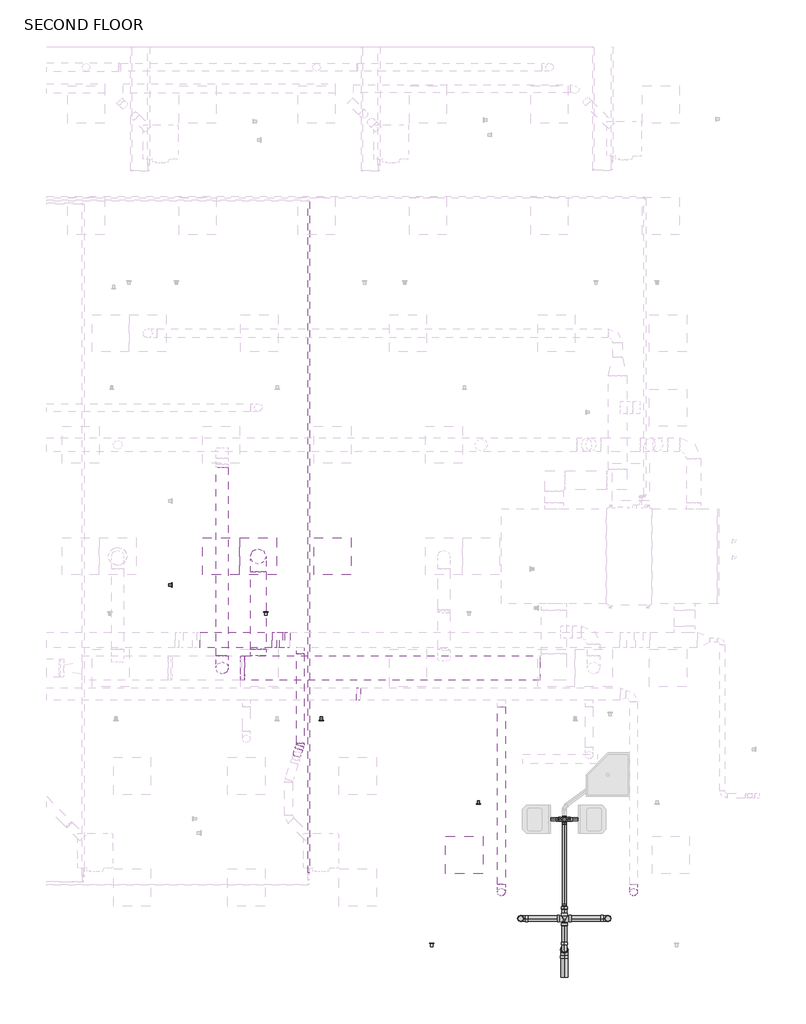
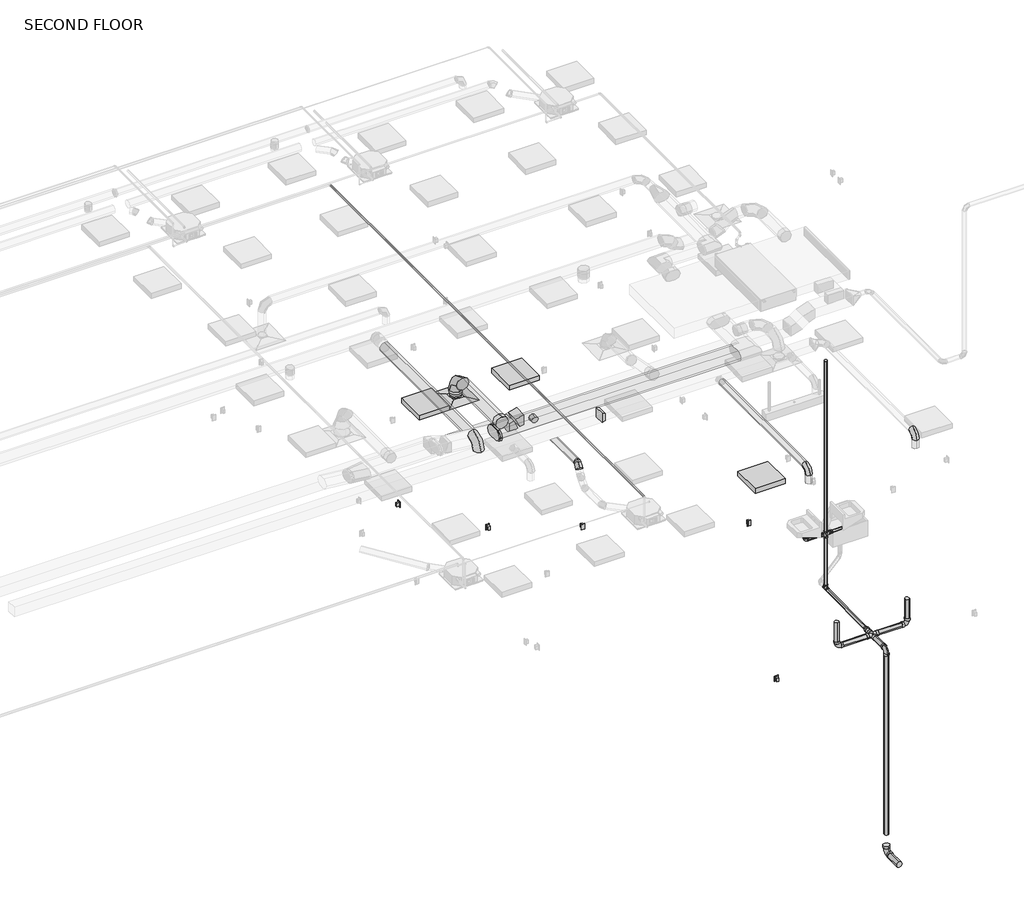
# One storey, part 4 of 12: 16 pipe segments, 13 duct fittings, 12 duct segments, 12 pipe fittings, 3 light fixtures, 3 switching devices, 2 proxies, 1 air terminal.
"""IFC4 building model written with IfcOpenShell, lengths in millimetres."""

from ifc_helpers import new_model, si_unit, point, frame, frame_2d, origin, place, context, project, spatial, polyline, circle_curve, trimmed, segment, composite_curve, outline, extrude, transform, mapped, element, save
from components import air_terminal_e9020785, duplex_receptacle_countertop_10251bba, oval_elbow_mitered_standard_605f781d, rectangular_elbow_radius_1_5_w_1e05c444, rectangular_transition_angle_45_degree_f04e55b7, round_elbow_1_d_eb5e9ad8, round_elbow_1_d_01278626, round_elbow_1_d_a253342a, round_elbow_1_d_c80420c1, round_elbow_1_d_e3dc691b, round_takeoff_standard_7fe2b2d5, round_takeoff_standard_86724b47, round_transition_angle_45_degree_6c335ea7, troffer_corner_insert_2x2_3lamp_e67c7f8f, bend_pvc_sch_40_dwv_standard_738aab8b, bend_pvc_sch_40_dwv_standard_a4b99d37, bend_pvc_sch_40_dwv_standard_5536a2d2, bend_pvc_sch_40_dwv_standard_1fb0f857, reducer_pvc_sch_40_dwv_standard_44865e00, reducer_pvc_sch_40_dwv_standard_230e9924, tee_double_sanitary_pvc_sch_40_dwv_standard_0560fe9e, tee_double_sanitary_pvc_sch_40_dwv_standard_2fd41c53, tee_sanitary_pvc_sch_40_dwv_standard_c06fe43b

model = new_model("IFC4")

# Units and contexts
model_context = context("Model", 3, world=origin())
ifc_project = project(units=[si_unit("LENGTHUNIT", "METRE", prefix="MILLI")], contexts=[model_context])

# Site, building, storey
site = spatial("IfcSite", under=ifc_project)
building = spatial("IfcBuilding", under=site)
storey = spatial("IfcBuildingStorey", under=building, Name="SECOND FLOOR", Elevation=34544.0)

# Air terminal
placement = place(None, origin())
air_terminal_shape = air_terminal_e9020785(model_context)
element("IfcAirTerminal", 1, ObjectType="Supply Diffuser - Rectangular Face Round Neck - Hosted : 24\"x24\" Face 8\" Neck - Hosted", at=placement, inside=storey, context=model_context, shape_type="MappedRepresentation", body=[
    mapped(air_terminal_shape, transform((5669.1232893, -751.4804995, 37287.2), x_axis=(-1.0, 0.0, 0.0), y_axis=(0.0, 1.0, 0.0), z_axis=(0.0, 0.0, -1.0))),
])

# Proxies
duplex_receptacle_countertop_shape = duplex_receptacle_countertop_10251bba(model_context)
element("IfcBuildingElementProxy", 2, Name="Duplex Receptacle : GFCI", ObjectType="Duplex Receptacle : GFCI", at=placement, inside=storey, context=model_context, shape_type="MappedRepresentation", body=[
    mapped(duplex_receptacle_countertop_shape, transform((8516.31879, -7095.1304995, 34086.8), x_axis=(-1.0, 0.0, 0.0), y_axis=(0.0, 0.0, 1.0), z_axis=(0.0, 1.0, 0.0))),
])
element("IfcBuildingElementProxy", 3, Name="Duplex Receptacle : Standard", ObjectType="Duplex Receptacle : Standard", at=placement, inside=storey, context=model_context, shape_type="MappedRepresentation", body=[
    mapped(duplex_receptacle_countertop_shape, transform((5796.2112859, -1665.8804995, 35001.2), x_axis=(-1.0, 0.0, 0.0), y_axis=(0.0, 0.0, 1.0), z_axis=(0.0, 1.0, 0.0))),
])

# Duct fittings
oval_elbow_mitered_standard_shape = oval_elbow_mitered_standard_605f781d(model_context)
element("IfcDuctFitting", 4, ObjectType="Oval Elbow - Mitered : Standard", at=placement, inside=storey, context=model_context, shape_type="MappedRepresentation", body=[
    mapped(oval_elbow_mitered_standard_shape, transform((5416.9741542, -2580.2804995, 37711.1892428), x_axis=(-1.0, 0.0, 0.0), y_axis=(0.0, 0.0, 1.0), z_axis=(0.0, 1.0, 0.0))),
])
rectangular_elbow_radius_1_5_w_shape = rectangular_elbow_radius_1_5_w_1e05c444(model_context)
element("IfcDuctFitting", 5, ObjectType="Rectangular Elbow - Radius : 1.5 W", at=placement, inside=storey, context=model_context, shape_type="MappedRepresentation", body=[
    mapped(rectangular_elbow_radius_1_5_w_shape, transform((6123.5451964, -2123.0804995, 37515.8), x_axis=(-1.0, 0.0, 0.0), y_axis=(0.0, 0.0, -1.0), z_axis=(0.0, -1.0, 0.0))),
])
element("IfcDuctFitting", 6, ObjectType="Rectangular Elbow - Radius : 1.5 W", at=placement, inside=storey, context=model_context, shape_type="MappedRepresentation", body=[
    mapped(rectangular_elbow_radius_1_5_w_shape, transform((5964.0014464, -2123.0804995, 37439.6), x_axis=(1.0, 0.0, 0.0), y_axis=(0.0, 0.0, 1.0), z_axis=(0.0, -1.0, 0.0))),
])
rectangular_transition_angle_45_degree_shape = rectangular_transition_angle_45_degree_f04e55b7(model_context)
element("IfcDuctFitting", 7, ObjectType="Rectangular Transition - Angle : 45 Degree", at=placement, inside=storey, context=model_context, shape_type="MappedRepresentation", body=[
    mapped(rectangular_transition_angle_45_degree_shape, transform((7344.8230026, -3010.2706668, 37693.6), x_axis=(-1.0, 0.0, 0.0), y_axis=(0.0, -1.0, 0.0), z_axis=(0.0, 0.0, 1.0))),
])
round_elbow_1_d_shape = round_elbow_1_d_eb5e9ad8(model_context)
element("IfcDuctFitting", 8, ObjectType="Round Elbow : 1 D", at=placement, inside=storey, context=model_context, shape_type="MappedRepresentation", body=[
    mapped(round_elbow_1_d_shape, transform((5669.1232893, -751.4804995, 37711.1617188), x_axis=(0.0, 0.0, 1.0), y_axis=(0.0, -1.0, 0.0), z_axis=(1.0, 0.0, 0.0))),
])
round_elbow_1_d_2_shape = round_elbow_1_d_01278626(model_context)
element("IfcDuctFitting", 9, ObjectType="Round Elbow : 1 D", at=placement, inside=storey, context=model_context, shape_type="MappedRepresentation", body=[
    mapped(round_elbow_1_d_2_shape, transform((6360.2841398, -3835.1472328, 37515.8), x_axis=(0.30330149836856, 0.9528946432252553, 0.0), y_axis=(-0.9528946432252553, 0.30330149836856, 0.0), z_axis=(0.0, 0.0, 1.0))),
])
round_elbow_1_d_3_shape = round_elbow_1_d_a253342a(model_context)
element("IfcDuctFitting", 10, ObjectType="Round Elbow : 1 D", at=placement, inside=storey, context=model_context, shape_type="MappedRepresentation", body=[
    mapped(round_elbow_1_d_3_shape, transform((5077.7795393, -2580.2804995, 37668.2), x_axis=(0.0, 0.0, 1.0), y_axis=(0.0, 1.0, 0.0), z_axis=(-1.0, 0.0, 0.0))),
])
round_elbow_1_d_4_shape = round_elbow_1_d_c80420c1(model_context)
element("IfcDuctFitting", 11, ObjectType="Round Elbow : 1 D", at=placement, inside=storey, context=model_context, shape_type="MappedRepresentation", body=[
    mapped(round_elbow_1_d_4_shape, transform((11827.8295393, -6256.9304995, 37693.6), x_axis=(0.0, 0.0, 1.0), y_axis=(0.0, 1.0, 0.0), z_axis=(-1.0, 0.0, 0.0))),
])
element("IfcDuctFitting", 12, ObjectType="Round Elbow : 1 D", at=placement, inside=storey, context=model_context, shape_type="MappedRepresentation", body=[
    mapped(round_elbow_1_d_4_shape, transform((9659.3045393, -6256.9304995, 37693.6), x_axis=(0.0, 0.0, 1.0), y_axis=(0.0, 1.0, 0.0), z_axis=(-1.0, 0.0, 0.0))),
])
round_elbow_1_d_5_shape = round_elbow_1_d_e3dc691b(model_context)
element("IfcDuctFitting", 13, ObjectType="Round Elbow : 1 D", at=placement, inside=storey, context=model_context, shape_type="MappedRepresentation", body=[
    mapped(round_elbow_1_d_5_shape, transform((6320.031624, -3961.6101976, 37515.8), x_axis=(-0.30330149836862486, -0.9528946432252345, 0.0), y_axis=(0.0, 0.0, -1.0), z_axis=(0.9528946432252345, -0.30330149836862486, 0.0))),
])
round_takeoff_standard_shape = round_takeoff_standard_7fe2b2d5(model_context)
element("IfcDuctFitting", 14, ObjectType="Round Takeoff : Standard", at=placement, inside=storey, context=model_context, shape_type="MappedRepresentation", body=[
    mapped(round_takeoff_standard_shape, transform((6360.2841398, -2250.0804995, 37515.8), x_axis=(0.0, -1.0, 0.0), y_axis=(-1.0, 0.0, 0.0), z_axis=(0.0, 0.0, -1.0))),
])
round_takeoff_standard_2_shape = round_takeoff_standard_86724b47(model_context)
element("IfcDuctFitting", 15, ObjectType="Round Takeoff : Standard", at=placement, inside=storey, context=model_context, shape_type="MappedRepresentation", body=[
    mapped(round_takeoff_standard_2_shape, transform((5669.1232893, -2377.0804995, 37711.1892428), x_axis=(0.0, 0.99999999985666, -1.693163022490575e-05), y_axis=(1.0, 0.0, 0.0), z_axis=(0.0, -1.693163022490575e-05, -0.99999999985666))),
])
round_transition_angle_45_degree_shape = round_transition_angle_45_degree_6c335ea7(model_context)
element("IfcDuctFitting", 16, ObjectType="Round Transition - Angle : 45 Degree", at=placement, inside=storey, context=model_context, shape_type="MappedRepresentation", body=[
    mapped(round_transition_angle_45_degree_shape, transform((5669.1232893, -751.4804995, 37341.175), x_axis=(0.0, 0.0, 1.0), y_axis=(1.0, 0.0, 0.0), z_axis=(0.0, 1.0, 0.0))),
])

# Duct segments
element("IfcDuctSegment", 17, ObjectType="Mitered Elbows / Taps", at=placement, inside=storey, context=model_context, shape_type="SweptSolid", body=[
    extrude(outline(composite_curve([segment(trimmed(circle_curve(frame_2d((-2478.6804995, 37711.1892428)), 101.6), [point((-2478.6804995, 37812.7892428))], [point((-2377.0804995, 37711.1892428))], False, "CARTESIAN"), True, "CONTINUOUS"), segment(trimmed(circle_curve(frame_2d((-2478.6804995, 37711.1892428)), 101.6), [point((-2377.0804995, 37711.1892428))], [point((-2478.6804995, 37609.5892428))], False, "CARTESIAN"), True, "CONTINUOUS"), segment(polyline([(-2478.6804995, 37609.5892428), (-2681.8804995, 37609.5892428)]), True, "CONTINUOUS"), segment(trimmed(circle_curve(frame_2d((-2681.8804995, 37711.1892428)), 101.6), [point((-2681.8804995, 37609.5892428))], [point((-2783.4804995, 37711.1892428))], False, "CARTESIAN"), True, "CONTINUOUS"), segment(trimmed(circle_curve(frame_2d((-2681.8804995, 37711.1892428)), 101.6), [point((-2783.4804995, 37711.1892428))], [point((-2681.8804995, 37812.7892428))], False, "CARTESIAN"), True, "CONTINUOUS"), segment(polyline([(-2681.8804995, 37812.7892428), (-2478.6804995, 37812.7892428)]), True, "CONTINUOUS")], self_intersect=False)), frame((5447.0075088, 0.0, 0.0), z_axis=(1.0, 0.0, 0.0), x_axis=(0.0, 1.0, 0.0)), (0.0, 0.0, 1.0), 4846.9001554),
])
element("IfcDuctSegment", 18, ObjectType="Radius Elbows / Taps", at=placement, inside=storey, context=model_context, shape_type="SweptSolid", body=[
    extrude(outline(polyline([(4720.0073982, -2250.0804995), (4720.0073982, -1996.0804995), (5894.9492053, -1996.0804995), (5894.9492053, -2250.0804995), (4720.0073982, -2250.0804995)])), frame((0.0, 0.0, 37338.0), z_axis=(0.0, 0.0, 1.0), x_axis=(1.0, 0.0, 0.0)), (0.0, 0.0, 1.0), 203.2),
])
element("IfcDuctSegment", 19, ObjectType="Radius Elbows / Taps", at=placement, inside=storey, context=model_context, shape_type="SweptSolid", body=[
    extrude(outline(polyline([(0.0, -254.0), (0.0, 0.0), (38.702328, 0.0), (38.702328, -254.0), (0.0, -254.0)])), frame((6105.0225304, -2250.0804995, 37394.3599619), z_axis=(-0.43097887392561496, 0.0, 0.9023620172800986), x_axis=(-0.9023620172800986, 0.0, -0.43097887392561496)), (0.0, 0.0, 1.0), 203.2),
])
element("IfcDuctSegment", 20, ObjectType="Taps / Short Radius", at=placement, inside=storey, context=model_context, shape_type="SweptSolid", body=[
    extrude(outline(composite_curve([segment(trimmed(circle_curve(frame_2d((11827.8295393, -6256.9304995)), 63.5), [point((11891.3295393, -6256.9304995))], [point((11827.8295393, -6320.4304995))], False, "CARTESIAN"), True, "CONTINUOUS"), segment(trimmed(circle_curve(frame_2d((11827.8295393, -6256.9304995)), 63.5), [point((11827.8295393, -6320.4304995))], [point((11764.3295393, -6256.9304995))], False, "CARTESIAN"), True, "CONTINUOUS"), segment(trimmed(circle_curve(frame_2d((11827.8295393, -6256.9304995)), 63.5), [point((11764.3295393, -6256.9304995))], [point((11827.8295393, -6193.4304995))], False, "CARTESIAN"), True, "CONTINUOUS"), segment(trimmed(circle_curve(frame_2d((11827.8295393, -6256.9304995)), 63.5), [point((11827.8295393, -6193.4304995))], [point((11891.3295393, -6256.9304995))], False, "CARTESIAN"), True, "CONTINUOUS")], self_intersect=False)), frame((0.0, 0.0, 37388.8), z_axis=(0.0, 0.0, 1.0), x_axis=(1.0, 0.0, 0.0)), (0.0, 0.0, 1.0), 177.8),
])
element("IfcDuctSegment", 21, ObjectType="Taps / Short Radius", at=placement, inside=storey, context=model_context, shape_type="SweptSolid", body=[
    extrude(outline(composite_curve([segment(trimmed(circle_curve(frame_2d((9659.3045393, -6256.9304995)), 63.5), [point((9595.8045393, -6256.9304995))], [point((9659.3045393, -6193.4304995))], False, "CARTESIAN"), True, "CONTINUOUS"), segment(trimmed(circle_curve(frame_2d((9659.3045393, -6256.9304995)), 63.5), [point((9659.3045393, -6193.4304995))], [point((9722.8045393, -6256.9304995))], False, "CARTESIAN"), True, "CONTINUOUS"), segment(trimmed(circle_curve(frame_2d((9659.3045393, -6256.9304995)), 63.5), [point((9722.8045393, -6256.9304995))], [point((9659.3045393, -6320.4304995))], False, "CARTESIAN"), True, "CONTINUOUS"), segment(trimmed(circle_curve(frame_2d((9659.3045393, -6256.9304995)), 63.5), [point((9659.3045393, -6320.4304995))], [point((9595.8045393, -6256.9304995))], False, "CARTESIAN"), True, "CONTINUOUS")], self_intersect=False)), frame((0.0, 0.0, 37388.8), z_axis=(0.0, 0.0, 1.0), x_axis=(1.0, 0.0, 0.0)), (0.0, 0.0, 1.0), 177.8),
])
element("IfcDuctSegment", 22, ObjectType="Taps / Short Radius", at=placement, inside=storey, context=model_context, shape_type="SweptSolid", body=[
    extrude(outline(composite_curve([segment(trimmed(circle_curve(frame_2d((37693.6, 9659.3045393)), 63.5), [point((37693.6, 9722.8045393))], [point((37757.1, 9659.3045393))], False, "CARTESIAN"), True, "CONTINUOUS"), segment(trimmed(circle_curve(frame_2d((37693.6, 9659.3045393)), 63.5), [point((37757.1, 9659.3045393))], [point((37693.6, 9595.8045393))], False, "CARTESIAN"), True, "CONTINUOUS"), segment(trimmed(circle_curve(frame_2d((37693.6, 9659.3045393)), 63.5), [point((37693.6, 9595.8045393))], [point((37630.1, 9659.3045393))], False, "CARTESIAN"), True, "CONTINUOUS"), segment(trimmed(circle_curve(frame_2d((37693.6, 9659.3045393)), 63.5), [point((37630.1, 9659.3045393))], [point((37693.6, 9722.8045393))], False, "CARTESIAN"), True, "CONTINUOUS")], self_intersect=False)), frame((0.0, -6129.9304995, 0.0), z_axis=(0.0, 1.0, 0.0), x_axis=(0.0, 0.0, 1.0)), (0.0, 0.0, 1.0), 2916.4598327),
])
element("IfcDuctSegment", 23, ObjectType="Taps / Short Radius", at=placement, inside=storey, context=model_context, shape_type="SweptSolid", body=[
    extrude(outline(composite_curve([segment(trimmed(circle_curve(frame_2d((5077.7795393, -2580.2804995)), 101.6), [point((5179.3795393, -2580.2804995))], [point((5077.7795393, -2681.8804995))], False, "CARTESIAN"), True, "CONTINUOUS"), segment(trimmed(circle_curve(frame_2d((5077.7795393, -2580.2804995)), 101.6), [point((5077.7795393, -2681.8804995))], [point((4976.1795393, -2580.2804995))], False, "CARTESIAN"), True, "CONTINUOUS"), segment(trimmed(circle_curve(frame_2d((5077.7795393, -2580.2804995)), 101.6), [point((4976.1795393, -2580.2804995))], [point((5077.7795393, -2478.6804995))], False, "CARTESIAN"), True, "CONTINUOUS"), segment(trimmed(circle_curve(frame_2d((5077.7795393, -2580.2804995)), 101.6), [point((5077.7795393, -2478.6804995))], [point((5179.3795393, -2580.2804995))], False, "CARTESIAN"), True, "CONTINUOUS")], self_intersect=False)), frame((0.0, 0.0, 37388.8), z_axis=(0.0, 0.0, 1.0), x_axis=(1.0, 0.0, 0.0)), (0.0, 0.0, 1.0), 76.2),
])
element("IfcDuctSegment", 24, ObjectType="Taps / Short Radius", at=placement, inside=storey, context=model_context, shape_type="SweptSolid", body=[
    extrude(outline(composite_curve([segment(trimmed(circle_curve(frame_2d((37668.2, 5077.7795393)), 101.6), [point((37668.2, 4976.1795393))], [point((37566.6, 5077.7795393))], False, "CARTESIAN"), True, "CONTINUOUS"), segment(trimmed(circle_curve(frame_2d((37668.2, 5077.7795393)), 101.6), [point((37566.6, 5077.7795393))], [point((37668.2, 5179.3795393))], False, "CARTESIAN"), True, "CONTINUOUS"), segment(trimmed(circle_curve(frame_2d((37668.2, 5077.7795393)), 101.6), [point((37668.2, 5179.3795393))], [point((37769.8, 5077.7795393))], False, "CARTESIAN"), True, "CONTINUOUS"), segment(trimmed(circle_curve(frame_2d((37668.2, 5077.7795393)), 101.6), [point((37769.8, 5077.7795393))], [point((37668.2, 4976.1795393))], False, "CARTESIAN"), True, "CONTINUOUS")], self_intersect=False)), frame((0.0, -2377.0804995, 0.0), z_axis=(0.0, 1.0, 0.0), x_axis=(0.0, 0.0, 1.0)), (0.0, 0.0, 1.0), 3085.0060702),
])
element("IfcDuctSegment", 25, ObjectType="Taps / Short Radius", at=placement, inside=storey, context=model_context, shape_type="SweptSolid", body=[
    extrude(outline(composite_curve([segment(trimmed(circle_curve(frame_2d((37515.8, 6360.2841398)), 63.5), [point((37515.8, 6296.7841398))], [point((37452.3, 6360.2841398))], False, "CARTESIAN"), True, "CONTINUOUS"), segment(trimmed(circle_curve(frame_2d((37515.8, 6360.2841398)), 63.5), [point((37452.3, 6360.2841398))], [point((37515.8, 6423.7841398))], False, "CARTESIAN"), True, "CONTINUOUS"), segment(trimmed(circle_curve(frame_2d((37515.8, 6360.2841398)), 63.5), [point((37515.8, 6423.7841398))], [point((37579.3, 6360.2841398))], False, "CARTESIAN"), True, "CONTINUOUS"), segment(trimmed(circle_curve(frame_2d((37515.8, 6360.2841398)), 63.5), [point((37579.3, 6360.2841398))], [point((37515.8, 6296.7841398))], False, "CARTESIAN"), True, "CONTINUOUS")], self_intersect=False)), frame((0.0, -3815.4230298, 0.0), z_axis=(0.0, 1.0, 0.0), x_axis=(0.0, 0.0, 1.0)), (0.0, 0.0, 1.0), 1463.7425303),
])
element("IfcDuctSegment", 26, ObjectType="Taps / Short Radius", at=placement, inside=storey, context=model_context, shape_type="SweptSolid", body=[
    extrude(outline(composite_curve([segment(trimmed(circle_curve(frame_2d((0.0, 127.0)), 127.0), [point((0.0, 0.0))], [point((-127.0, 127.0))], False, "CARTESIAN"), True, "CONTINUOUS"), segment(trimmed(circle_curve(frame_2d((0.0, 127.0)), 127.0), [point((-127.0, 127.0))], [point((0.0, 254.0))], False, "CARTESIAN"), True, "CONTINUOUS"), segment(trimmed(circle_curve(frame_2d((0.0, 127.0)), 127.0), [point((0.0, 254.0))], [point((127.0, 127.0))], False, "CARTESIAN"), True, "CONTINUOUS"), segment(trimmed(circle_curve(frame_2d((0.0, 127.0)), 127.0), [point((127.0, 127.0))], [point((0.0, 0.0))], False, "CARTESIAN"), True, "CONTINUOUS")], self_intersect=False)), frame((5542.1232893, -1005.4761989, 37711.1660193), z_axis=(0.0, -0.99999999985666, 1.6931630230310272e-05), x_axis=(0.0, -1.6931630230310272e-05, -0.99999999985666)), (0.0, 0.0, 1.0), 1270.0043008),
])
element("IfcDuctSegment", 27, ObjectType="Taps / Short Radius", at=placement, inside=storey, context=model_context, shape_type="SweptSolid", body=[
    extrude(outline(composite_curve([segment(trimmed(circle_curve(frame_2d((5669.1232893, -751.4804995)), 127.0), [point((5542.1232893, -751.4804995))], [point((5669.1232893, -624.4804995))], False, "CARTESIAN"), True, "CONTINUOUS"), segment(trimmed(circle_curve(frame_2d((5669.1232893, -751.4804995)), 127.0), [point((5669.1232893, -624.4804995))], [point((5796.1232893, -751.4804995))], False, "CARTESIAN"), True, "CONTINUOUS"), segment(trimmed(circle_curve(frame_2d((5669.1232893, -751.4804995)), 127.0), [point((5796.1232893, -751.4804995))], [point((5669.1232893, -878.4804995))], False, "CARTESIAN"), True, "CONTINUOUS"), segment(trimmed(circle_curve(frame_2d((5669.1232893, -751.4804995)), 127.0), [point((5669.1232893, -878.4804995))], [point((5542.1232893, -751.4804995))], False, "CARTESIAN"), True, "CONTINUOUS")], self_intersect=False)), frame((0.0, 0.0, 37402.4960245), z_axis=(0.0, 0.0, 1.0), x_axis=(1.0, 0.0, 0.0)), (0.0, 0.0, 1.0), 54.6699949),
])
element("IfcDuctSegment", 28, ObjectType="Taps / Short Radius", at=placement, inside=storey, context=model_context, shape_type="SweptSolid", body=[
    extrude(outline(composite_curve([segment(trimmed(circle_curve(frame_2d((0.0, -63.5)), 63.5), [point((-63.4999999, -63.5))], [point((0.0, 0.0))], False, "CARTESIAN"), True, "CONTINUOUS"), segment(trimmed(circle_curve(frame_2d((0.0, -63.5)), 63.5), [point((0.0, 0.0))], [point((63.5000001, -63.5))], False, "CARTESIAN"), True, "CONTINUOUS"), segment(trimmed(circle_curve(frame_2d((0.0, -63.5)), 63.5), [point((63.5000001, -63.5))], [point((0.0, -127.0))], False, "CARTESIAN"), True, "CONTINUOUS"), segment(trimmed(circle_curve(frame_2d((0.0, -63.5)), 63.5), [point((0.0, -127.0))], [point((-63.4999999, -63.5))], False, "CARTESIAN"), True, "CONTINUOUS")], self_intersect=False)), frame((6335.9868364, -3911.4830582, 37452.3), z_axis=(0.30330149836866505, 0.9528946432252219, 0.0), x_axis=(0.9528946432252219, -0.30330149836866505, 0.0)), (0.0, 0.0, 1.0), 60.3852047),
])

# Light fixtures
troffer_corner_insert_2x2_3lamp_shape = troffer_corner_insert_2x2_3lamp_e67c7f8f(model_context)
element("IfcLightFixture", 29, ObjectType="Troffer Corner Insert : 2x2 3Lamp", at=placement, inside=storey, context=model_context, shape_type="MappedRepresentation", body=[
    mapped(troffer_corner_insert_2x2_3lamp_shape, transform((9049.7045393, -5647.3304995, 34848.8), x_axis=(1.0, 0.0, 0.0), y_axis=(0.0, 1.0, 0.0), z_axis=(0.0, 0.0, 1.0))),
])
element("IfcLightFixture", 30, ObjectType="Troffer Corner Insert : 2x2 3Lamp", at=placement, inside=storey, context=model_context, shape_type="MappedRepresentation", body=[
    mapped(troffer_corner_insert_2x2_3lamp_shape, transform((5059.5232893, -751.4804995, 34848.8), x_axis=(1.0, 0.0, 0.0), y_axis=(0.0, 1.0, 0.0), z_axis=(0.0, 0.0, 1.0))),
])
element("IfcLightFixture", 31, ObjectType="Troffer Corner Insert : 2x2 3Lamp", at=placement, inside=storey, context=model_context, shape_type="MappedRepresentation", body=[
    mapped(troffer_corner_insert_2x2_3lamp_shape, transform((6888.3232893, -751.4804995, 34848.8), x_axis=(1.0, 0.0, 0.0), y_axis=(0.0, 1.0, 0.0), z_axis=(0.0, 0.0, 1.0))),
])

# Pipe fittings
bend_pvc_sch_40_dwv_standard_shape = bend_pvc_sch_40_dwv_standard_738aab8b(model_context)
element("IfcPipeFitting", 32, ObjectType="Bend - PVC - Sch 40 - DWV : Standard", at=placement, inside=storey, context=model_context, shape_type="MappedRepresentation", body=[
    mapped(bend_pvc_sch_40_dwv_standard_shape, transform((11122.9299299, -5063.1304995, 35204.4), x_axis=(0.0, 0.0, -1.0), y_axis=(-0.9999999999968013, -2.5292969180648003e-06, 0.0), z_axis=(-2.5292969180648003e-06, 0.9999999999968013, 0.0))),
])
element("IfcPipeFitting", 33, ObjectType="Bend - PVC - Sch 40 - DWV : Standard", at=placement, inside=storey, context=model_context, shape_type="MappedRepresentation", body=[
    mapped(bend_pvc_sch_40_dwv_standard_shape, transform((10262.5545393, -5063.1304995, 35204.4), x_axis=(0.0, 0.0, -1.0), y_axis=(0.9999999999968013, -2.529296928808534e-06, 0.0), z_axis=(-2.529296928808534e-06, -0.9999999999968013, 0.0))),
])
bend_pvc_sch_40_dwv_standard_2_shape = bend_pvc_sch_40_dwv_standard_a4b99d37(model_context)
element("IfcPipeFitting", 34, ObjectType="Bend - PVC - Sch 40 - DWV : Standard", at=placement, inside=storey, context=model_context, shape_type="MappedRepresentation", body=[
    mapped(bend_pvc_sch_40_dwv_standard_2_shape, transform((11408.6799299, -6688.7304995, 34017.6868466), x_axis=(0.0, 0.0, -1.0), y_axis=(-1.0, 0.0, 0.0), z_axis=(0.0, 1.0, 0.0))),
])
element("IfcPipeFitting", 35, ObjectType="Bend - PVC - Sch 40 - DWV : Standard", at=placement, inside=storey, context=model_context, shape_type="MappedRepresentation", body=[
    mapped(bend_pvc_sch_40_dwv_standard_2_shape, transform((9976.8045393, -6688.7304995, 34017.6868466), x_axis=(0.0, 0.0, -1.0), y_axis=(1.0, 0.0, 0.0), z_axis=(0.0, -1.0, 0.0))),
])
bend_pvc_sch_40_dwv_standard_3_shape = bend_pvc_sch_40_dwv_standard_5536a2d2(model_context)
element("IfcPipeFitting", 36, ObjectType="Bend - PVC - Sch 40 - DWV : Standard", at=placement, inside=storey, context=model_context, shape_type="MappedRepresentation", body=[
    mapped(bend_pvc_sch_40_dwv_standard_3_shape, transform((10692.7422346, -7196.7161279, 34012.3953296), x_axis=(0.0, -0.9999457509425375, -0.010416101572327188), y_axis=(0.0, 0.010416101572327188, -0.9999457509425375), z_axis=(1.0, 0.0, 0.0))),
])
bend_pvc_sch_40_dwv_standard_4_shape = bend_pvc_sch_40_dwv_standard_1fb0f857(model_context)
element("IfcPipeFitting", 37, ObjectType="Bend - PVC - Sch 40 - DWV : Standard", at=placement, inside=storey, context=model_context, shape_type="MappedRepresentation", body=[
    mapped(bend_pvc_sch_40_dwv_standard_4_shape, transform((10692.7422346, -7196.7161279, 29667.2), x_axis=(0.0, 0.0, -1.0), y_axis=(0.0, -1.0, 0.0), z_axis=(-1.0, 0.0, 0.0))),
])
reducer_pvc_sch_40_dwv_standard_shape = reducer_pvc_sch_40_dwv_standard_44865e00(model_context)
element("IfcPipeFitting", 38, ObjectType="Reducer - PVC - Sch 40 - DWV : Standard", at=placement, inside=storey, context=model_context, shape_type="MappedRepresentation", body=[
    mapped(reducer_pvc_sch_40_dwv_standard_shape, transform((10692.7422346, -6454.6677731, 34020.125), x_axis=(0.0, -0.9999457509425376, -0.010416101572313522), y_axis=(1.0, 0.0, 0.0), z_axis=(0.0, -0.010416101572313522, 0.9999457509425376))),
])
reducer_pvc_sch_40_dwv_standard_2_shape = reducer_pvc_sch_40_dwv_standard_230e9924(model_context)
element("IfcPipeFitting", 39, ObjectType="Reducer - PVC - Sch 40 - DWV : Standard", at=placement, inside=storey, context=model_context, shape_type="MappedRepresentation", body=[
    mapped(reducer_pvc_sch_40_dwv_standard_2_shape, transform((10820.5296346, -5063.1311379, 35204.4), x_axis=(-0.9999999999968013, -2.5292969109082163e-06, 0.0), y_axis=(2.5292969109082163e-06, -0.9999999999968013, 0.0), z_axis=(0.0, 0.0, 1.0))),
])
element("IfcPipeFitting", 40, ObjectType="Reducer - PVC - Sch 40 - DWV : Standard", at=placement, inside=storey, context=model_context, shape_type="MappedRepresentation", body=[
    mapped(reducer_pvc_sch_40_dwv_standard_2_shape, transform((10564.9548346, -5063.1311379, 35204.4), x_axis=(0.9999999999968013, -2.5292969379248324e-06, 0.0), y_axis=(2.5292969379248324e-06, 0.9999999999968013, 0.0), z_axis=(0.0, 0.0, 1.0))),
])
tee_double_sanitary_pvc_sch_40_dwv_standard_shape = tee_double_sanitary_pvc_sch_40_dwv_standard_0560fe9e(model_context)
element("IfcPipeFitting", 41, ObjectType="Tee Double Sanitary - PVC - Sch 40 - DWV : Standard", at=placement, inside=storey, context=model_context, shape_type="MappedRepresentation", body=[
    mapped(tee_double_sanitary_pvc_sch_40_dwv_standard_shape, transform((10692.7422346, -6688.7304995, 34017.6868466), x_axis=(0.0, 0.9999457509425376, 0.010416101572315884), y_axis=(1.0000000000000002, 0.0, 0.0), z_axis=(0.0, 0.010416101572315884, -0.9999457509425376))),
])
tee_double_sanitary_pvc_sch_40_dwv_standard_2_shape = tee_double_sanitary_pvc_sch_40_dwv_standard_2fd41c53(model_context)
element("IfcPipeFitting", 42, ObjectType="Tee Double Sanitary - PVC - Sch 40 - DWV : Standard", at=placement, inside=storey, context=model_context, shape_type="MappedRepresentation", body=[
    mapped(tee_double_sanitary_pvc_sch_40_dwv_standard_2_shape, transform((10692.7422346, -5063.1312643, 35204.4), x_axis=(0.0, -1.4170636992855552e-05, 0.9999999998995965), y_axis=(1.0, 0.0, 0.0), z_axis=(0.0, 0.9999999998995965, 1.4170636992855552e-05))),
])
tee_sanitary_pvc_sch_40_dwv_standard_shape = tee_sanitary_pvc_sch_40_dwv_standard_c06fe43b(model_context)
element("IfcPipeFitting", 43, ObjectType="Tee Sanitary - PVC - Sch 40 - DWV : Standard", at=placement, inside=storey, context=model_context, shape_type="MappedRepresentation", body=[
    mapped(tee_sanitary_pvc_sch_40_dwv_standard_shape, transform((10692.7422346, -5063.1150513, 34034.6203409), x_axis=(0.0, 0.9999457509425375, 0.010416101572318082), y_axis=(0.0, 0.010416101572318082, -0.9999457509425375), z_axis=(-1.0, 0.0, 0.0))),
])

# Pipe segments
element("IfcPipeSegment", 44, ObjectType="Copper Tubing", at=placement, inside=storey, context=model_context, shape_type="SweptSolid", body=[
    extrude(outline(composite_curve([segment(trimmed(circle_curve(frame_2d((37998.4, 6500.4970393)), 14.2875), [point((37998.4, 6514.7845393))], [point((38012.6875, 6500.4970393))], False, "CARTESIAN"), True, "CONTINUOUS"), segment(trimmed(circle_curve(frame_2d((37998.4, 6500.4970393)), 14.2875), [point((38012.6875, 6500.4970393))], [point((37998.4, 6486.2095393))], False, "CARTESIAN"), True, "CONTINUOUS"), segment(trimmed(circle_curve(frame_2d((37998.4, 6500.4970393)), 14.2875), [point((37998.4, 6486.2095393))], [point((37984.1125, 6500.4970393))], False, "CARTESIAN"), True, "CONTINUOUS"), segment(trimmed(circle_curve(frame_2d((37998.4, 6500.4970393)), 14.2875), [point((37984.1125, 6500.4970393))], [point((37998.4, 6514.7845393))], False, "CARTESIAN"), True, "CONTINUOUS")], self_intersect=False)), frame((0.0, -5940.3446348, 0.0), z_axis=(0.0, 1.0, 0.0), x_axis=(0.0, 0.0, 1.0)), (0.0, 0.0, 1.0), 11004.5772658),
])
element("IfcPipeSegment", 45, ObjectType="PVC - DWV", at=placement, inside=storey, context=model_context, shape_type="SweptSolid", body=[
    extrude(outline(composite_curve([segment(trimmed(circle_curve(frame_2d((11122.9299299, -5063.1304995)), 24.209375), [point((11147.1393049, -5063.1304995))], [point((11122.9299299, -5087.3398745))], False, "CARTESIAN"), True, "CONTINUOUS"), segment(trimmed(circle_curve(frame_2d((11122.9299299, -5063.1304995)), 24.209375), [point((11122.9299299, -5087.3398745))], [point((11098.7205549, -5063.1304995))], False, "CARTESIAN"), True, "CONTINUOUS"), segment(trimmed(circle_curve(frame_2d((11122.9299299, -5063.1304995)), 24.209375), [point((11098.7205549, -5063.1304995))], [point((11122.9299299, -5038.9211245))], False, "CARTESIAN"), True, "CONTINUOUS"), segment(trimmed(circle_curve(frame_2d((11122.9299299, -5063.1304995)), 24.209375), [point((11122.9299299, -5038.9211245))], [point((11147.1393049, -5063.1304995))], False, "CARTESIAN"), True, "CONTINUOUS")], self_intersect=False)), frame((0.0, 0.0, 35266.2998), z_axis=(0.0, 0.0, 1.0), x_axis=(1.0, 0.0, 0.0)), (0.0, 0.0, 1.0), 77.8002),
])
element("IfcPipeSegment", 46, ObjectType="PVC - DWV", at=placement, inside=storey, context=model_context, shape_type="SweptSolid", body=[
    extrude(outline(composite_curve([segment(trimmed(circle_curve(frame_2d((0.0, -24.209375)), 24.209375), [point((-24.209375, -24.209375))], [point((0.0, 0.0))], False, "CARTESIAN"), True, "CONTINUOUS"), segment(trimmed(circle_curve(frame_2d((0.0, -24.209375)), 24.209375), [point((0.0, 0.0))], [point((24.209375, -24.209375))], False, "CARTESIAN"), True, "CONTINUOUS"), segment(trimmed(circle_curve(frame_2d((0.0, -24.209375)), 24.209375), [point((24.209375, -24.209375))], [point((0.0, -48.41875))], False, "CARTESIAN"), True, "CONTINUOUS"), segment(trimmed(circle_curve(frame_2d((0.0, -24.209375)), 24.209375), [point((0.0, -48.41875))], [point((-24.209375, -24.209375))], False, "CARTESIAN"), True, "CONTINUOUS")], self_intersect=False)), frame((10820.5296346, -5063.1311379, 35180.190625), z_axis=(0.9999999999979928, 2.0035912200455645e-06, 0.0), x_axis=(2.0035912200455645e-06, -0.9999999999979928, 0.0)), (0.0, 0.0, 1.0), 240.5004953),
])
element("IfcPipeSegment", 47, ObjectType="PVC - DWV", at=placement, inside=storey, context=model_context, shape_type="SweptSolid", body=[
    extrude(outline(composite_curve([segment(trimmed(circle_curve(frame_2d((10262.5545393, -5063.1304995)), 24.209375), [point((10286.7639143, -5063.1304995))], [point((10262.5545393, -5087.3398745))], False, "CARTESIAN"), True, "CONTINUOUS"), segment(trimmed(circle_curve(frame_2d((10262.5545393, -5063.1304995)), 24.209375), [point((10262.5545393, -5087.3398745))], [point((10238.3451643, -5063.1304995))], False, "CARTESIAN"), True, "CONTINUOUS"), segment(trimmed(circle_curve(frame_2d((10262.5545393, -5063.1304995)), 24.209375), [point((10238.3451643, -5063.1304995))], [point((10262.5545393, -5038.9211245))], False, "CARTESIAN"), True, "CONTINUOUS"), segment(trimmed(circle_curve(frame_2d((10262.5545393, -5063.1304995)), 24.209375), [point((10262.5545393, -5038.9211245))], [point((10286.7639143, -5063.1304995))], False, "CARTESIAN"), True, "CONTINUOUS")], self_intersect=False)), frame((0.0, 0.0, 35266.2998), z_axis=(0.0, 0.0, 1.0), x_axis=(1.0, 0.0, 0.0)), (0.0, 0.0, 1.0), 77.8002),
])
element("IfcPipeSegment", 48, ObjectType="PVC - DWV", at=placement, inside=storey, context=model_context, shape_type="SweptSolid", body=[
    extrude(outline(composite_curve([segment(trimmed(circle_curve(frame_2d((0.0, -30.1625)), 30.1625), [point((-30.1625, -30.1625))], [point((0.0, 0.0))], False, "CARTESIAN"), True, "CONTINUOUS"), segment(trimmed(circle_curve(frame_2d((0.0, -30.1625)), 30.1625), [point((0.0, 0.0))], [point((30.1625, -30.1625))], False, "CARTESIAN"), True, "CONTINUOUS"), segment(trimmed(circle_curve(frame_2d((0.0, -30.1625)), 30.1625), [point((30.1625, -30.1625))], [point((0.0, -60.325))], False, "CARTESIAN"), True, "CONTINUOUS"), segment(trimmed(circle_curve(frame_2d((0.0, -30.1625)), 30.1625), [point((0.0, -60.325))], [point((-30.1625, -30.1625))], False, "CARTESIAN"), True, "CONTINUOUS")], self_intersect=False)), frame((10692.7422346, -6454.3535977, 33989.9641363), z_axis=(0.0, 0.9999457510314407, 0.010416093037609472), x_axis=(1.0, 0.0, 0.0)), (0.0, 0.0, 1.0), 1313.8280162),
])
element("IfcPipeSegment", 49, ObjectType="PVC - DWV", at=placement, inside=storey, context=model_context, shape_type="SweptSolid", body=[
    extrude(outline(composite_curve([segment(trimmed(circle_curve(frame_2d((0.0, -30.1625)), 30.1625), [point((-30.1625, -30.1625))], [point((0.0, 0.0))], False, "CARTESIAN"), True, "CONTINUOUS"), segment(trimmed(circle_curve(frame_2d((0.0, -30.1625)), 30.1625), [point((0.0, 0.0))], [point((30.1625, -30.1625))], False, "CARTESIAN"), True, "CONTINUOUS"), segment(trimmed(circle_curve(frame_2d((0.0, -30.1625)), 30.1625), [point((30.1625, -30.1625))], [point((0.0, -60.325))], False, "CARTESIAN"), True, "CONTINUOUS"), segment(trimmed(circle_curve(frame_2d((0.0, -30.1625)), 30.1625), [point((0.0, -60.325))], [point((-30.1625, -30.1625))], False, "CARTESIAN"), True, "CONTINUOUS")], self_intersect=False)), frame((10692.7422346, -5093.2786279, 34112.4201123), z_axis=(0.0, -1.3837738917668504e-05, 0.9999999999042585), x_axis=(-1.0, 0.0, 0.0)), (0.0, 0.0, 1.0), 1014.1792705),
])
element("IfcPipeSegment", 50, ObjectType="PVC - DWV", at=placement, inside=storey, context=model_context, shape_type="SweptSolid", body=[
    extrude(outline(composite_curve([segment(trimmed(circle_curve(frame_2d((0.0, -24.209375)), 24.209375), [point((-24.209375, -24.209375))], [point((0.0, 0.0))], False, "CARTESIAN"), True, "CONTINUOUS"), segment(trimmed(circle_curve(frame_2d((0.0, -24.209375)), 24.209375), [point((0.0, 0.0))], [point((24.209375, -24.209375))], False, "CARTESIAN"), True, "CONTINUOUS"), segment(trimmed(circle_curve(frame_2d((0.0, -24.209375)), 24.209375), [point((24.209375, -24.209375))], [point((0.0, -48.41875))], False, "CARTESIAN"), True, "CONTINUOUS"), segment(trimmed(circle_curve(frame_2d((0.0, -24.209375)), 24.209375), [point((0.0, -48.41875))], [point((-24.209375, -24.209375))], False, "CARTESIAN"), True, "CONTINUOUS")], self_intersect=False)), frame((10564.9548346, -5063.1311379, 35180.190625), z_axis=(-0.9999999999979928, 2.0035912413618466e-06, 0.0), x_axis=(2.0035912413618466e-06, 0.9999999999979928, 0.0)), (0.0, 0.0, 1.0), 240.5004953),
])
element("IfcPipeSegment", 51, ObjectType="PVC - DWV", at=placement, inside=storey, context=model_context, shape_type="SweptSolid", body=[
    extrude(outline(composite_curve([segment(trimmed(circle_curve(frame_2d((0.0, -44.45)), 44.45), [point((-44.45, -44.45))], [point((0.0, 0.0))], False, "CARTESIAN"), True, "CONTINUOUS"), segment(trimmed(circle_curve(frame_2d((0.0, -44.45)), 44.45), [point((0.0, 0.0))], [point((44.45, -44.45))], False, "CARTESIAN"), True, "CONTINUOUS"), segment(trimmed(circle_curve(frame_2d((0.0, -44.45)), 44.45), [point((44.45, -44.45))], [point((0.0, -88.8999999))], False, "CARTESIAN"), True, "CONTINUOUS"), segment(trimmed(circle_curve(frame_2d((0.0, -44.45)), 44.45), [point((0.0, -88.8999999))], [point((-44.45, -44.45))], False, "CARTESIAN"), True, "CONTINUOUS")], self_intersect=False)), frame((10692.7422346, -7080.3592197, 33969.1549693), z_axis=(0.0, 0.9999457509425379, 0.010416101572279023), x_axis=(1.0, 0.0, 0.0)), (0.0, 0.0, 1.0), 276.2127877),
])
element("IfcPipeSegment", 52, ObjectType="PVC - DWV", at=placement, inside=storey, context=model_context, shape_type="SweptSolid", body=[
    extrude(outline(composite_curve([segment(trimmed(circle_curve(frame_2d((11408.6799299, -6688.7304995)), 44.45), [point((11453.1299299, -6688.7304995))], [point((11408.6799299, -6733.1804995))], False, "CARTESIAN"), True, "CONTINUOUS"), segment(trimmed(circle_curve(frame_2d((11408.6799299, -6688.7304995)), 44.45), [point((11408.6799299, -6733.1804995))], [point((11364.2299299, -6688.7304995))], False, "CARTESIAN"), True, "CONTINUOUS"), segment(trimmed(circle_curve(frame_2d((11408.6799299, -6688.7304995)), 44.45), [point((11364.2299299, -6688.7304995))], [point((11408.6799299, -6644.2804995))], False, "CARTESIAN"), True, "CONTINUOUS"), segment(trimmed(circle_curve(frame_2d((11408.6799299, -6688.7304995)), 44.45), [point((11408.6799299, -6644.2804995))], [point((11453.1299299, -6688.7304995))], False, "CARTESIAN"), True, "CONTINUOUS")], self_intersect=False)), frame((0.0, 0.0, 34133.5870466), z_axis=(0.0, 0.0, 1.0), x_axis=(1.0, 0.0, 0.0)), (0.0, 0.0, 1.0), 410.4129534),
])
element("IfcPipeSegment", 53, ObjectType="PVC - DWV", at=placement, inside=storey, context=model_context, shape_type="SweptSolid", body=[
    extrude(outline(composite_curve([segment(trimmed(circle_curve(frame_2d((0.0, -44.4500001)), 44.45), [point((-44.45, -44.4500001))], [point((0.0, 0.0))], False, "CARTESIAN"), True, "CONTINUOUS"), segment(trimmed(circle_curve(frame_2d((0.0, -44.4500001)), 44.45), [point((0.0, 0.0))], [point((44.45, -44.4500001))], False, "CARTESIAN"), True, "CONTINUOUS"), segment(trimmed(circle_curve(frame_2d((0.0, -44.4500001)), 44.45), [point((44.45, -44.4500001))], [point((0.0, -88.9))], False, "CARTESIAN"), True, "CONTINUOUS"), segment(trimmed(circle_curve(frame_2d((0.0, -44.4500001)), 44.45), [point((0.0, -88.9))], [point((-44.45, -44.4500001))], False, "CARTESIAN"), True, "CONTINUOUS")], self_intersect=False)), frame((10692.7422346, -6604.1472675, 33974.1155104), z_axis=(0.0, 0.999945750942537, 0.01041610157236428), x_axis=(1.0, 0.0, 0.0)), (0.0, 0.0, 1.0), 70.5756247),
])
element("IfcPipeSegment", 54, ObjectType="PVC - DWV", at=placement, inside=storey, context=model_context, shape_type="SweptSolid", body=[
    extrude(outline(composite_curve([segment(trimmed(circle_curve(frame_2d((9976.8045393, -6688.7304995)), 44.45), [point((10021.2545393, -6688.7304995))], [point((9976.8045393, -6733.1804995))], False, "CARTESIAN"), True, "CONTINUOUS"), segment(trimmed(circle_curve(frame_2d((9976.8045393, -6688.7304995)), 44.45), [point((9976.8045393, -6733.1804995))], [point((9932.3545393, -6688.7304995))], False, "CARTESIAN"), True, "CONTINUOUS"), segment(trimmed(circle_curve(frame_2d((9976.8045393, -6688.7304995)), 44.45), [point((9932.3545393, -6688.7304995))], [point((9976.8045393, -6644.2804995))], False, "CARTESIAN"), True, "CONTINUOUS"), segment(trimmed(circle_curve(frame_2d((9976.8045393, -6688.7304995)), 44.45), [point((9976.8045393, -6644.2804995))], [point((10021.2545393, -6688.7304995))], False, "CARTESIAN"), True, "CONTINUOUS")], self_intersect=False)), frame((0.0, 0.0, 34133.5870466), z_axis=(0.0, 0.0, 1.0), x_axis=(1.0, 0.0, 0.0)), (0.0, 0.0, 1.0), 410.4129534),
])
element("IfcPipeSegment", 55, ObjectType="PVC - DWV", at=placement, inside=storey, context=model_context, shape_type="SweptSolid", body=[
    extrude(outline(composite_curve([segment(trimmed(circle_curve(frame_2d((-6688.7304995, 34017.6868466)), 44.45), [point((-6733.1804995, 34017.6868466))], [point((-6688.7304995, 34062.1368466))], False, "CARTESIAN"), True, "CONTINUOUS"), segment(trimmed(circle_curve(frame_2d((-6688.7304995, 34017.6868466)), 44.45), [point((-6688.7304995, 34062.1368466))], [point((-6644.2804995, 34017.6868466))], False, "CARTESIAN"), True, "CONTINUOUS"), segment(trimmed(circle_curve(frame_2d((-6688.7304995, 34017.6868466)), 44.45), [point((-6644.2804995, 34017.6868466))], [point((-6688.7304995, 33973.2368466))], False, "CARTESIAN"), True, "CONTINUOUS"), segment(trimmed(circle_curve(frame_2d((-6688.7304995, 34017.6868466)), 44.45), [point((-6688.7304995, 33973.2368466))], [point((-6733.1804995, 34017.6868466))], False, "CARTESIAN"), True, "CONTINUOUS")], self_intersect=False)), frame((10808.6424346, 0.0, 0.0), z_axis=(1.0, 0.0, 0.0), x_axis=(0.0, 1.0, 0.0)), (0.0, 0.0, 1.0), 484.1372953),
])
element("IfcPipeSegment", 56, ObjectType="PVC - DWV", at=placement, inside=storey, context=model_context, shape_type="SweptSolid", body=[
    extrude(outline(composite_curve([segment(trimmed(circle_curve(frame_2d((-6688.7304995, 34017.6868466)), 44.45), [point((-6644.2804995, 34017.6868466))], [point((-6688.7304995, 33973.2368466))], False, "CARTESIAN"), True, "CONTINUOUS"), segment(trimmed(circle_curve(frame_2d((-6688.7304995, 34017.6868466)), 44.45), [point((-6688.7304995, 33973.2368466))], [point((-6733.1804995, 34017.6868466))], False, "CARTESIAN"), True, "CONTINUOUS"), segment(trimmed(circle_curve(frame_2d((-6688.7304995, 34017.6868466)), 44.45), [point((-6733.1804995, 34017.6868466))], [point((-6688.7304995, 34062.1368466))], False, "CARTESIAN"), True, "CONTINUOUS"), segment(trimmed(circle_curve(frame_2d((-6688.7304995, 34017.6868466)), 44.45), [point((-6688.7304995, 34062.1368466))], [point((-6644.2804995, 34017.6868466))], False, "CARTESIAN"), True, "CONTINUOUS")], self_intersect=False)), frame((10092.7047393, 0.0, 0.0), z_axis=(1.0, 0.0, 0.0), x_axis=(0.0, 1.0, 0.0)), (0.0, 0.0, 1.0), 484.1372953),
])
element("IfcPipeSegment", 57, ObjectType="PVC - DWV", at=placement, inside=storey, context=model_context, shape_type="SweptSolid", body=[
    extrude(outline(composite_curve([segment(trimmed(circle_curve(frame_2d((10692.7422346, -5063.1320292)), 30.1625), [point((10662.5797346, -5063.1320292))], [point((10692.7422346, -5032.9695292))], False, "CARTESIAN"), True, "CONTINUOUS"), segment(trimmed(circle_curve(frame_2d((10692.7422346, -5063.1320292)), 30.1625), [point((10692.7422346, -5032.9695292))], [point((10722.9047346, -5063.1320292))], False, "CARTESIAN"), True, "CONTINUOUS"), segment(trimmed(circle_curve(frame_2d((10692.7422346, -5063.1320292)), 30.1625), [point((10722.9047346, -5063.1320292))], [point((10692.7422346, -5093.2945292))], False, "CARTESIAN"), True, "CONTINUOUS"), segment(trimmed(circle_curve(frame_2d((10692.7422346, -5063.1320292)), 30.1625), [point((10692.7422346, -5093.2945292))], [point((10662.5797346, -5063.1320292))], False, "CARTESIAN"), True, "CONTINUOUS")], self_intersect=False)), frame((0.0, 0.0, 35258.375), z_axis=(0.0, 0.0, 1.0), x_axis=(1.0, 0.0, 0.0)), (0.0, 0.0, 1.0), 3657.6),
])
element("IfcPipeSegment", 58, ObjectType="PVC - DWV", at=placement, inside=storey, context=model_context, shape_type="SweptSolid", body=[
    extrude(outline(composite_curve([segment(trimmed(circle_curve(frame_2d((29667.2, 10692.7422346)), 57.15), [point((29667.2, 10635.5922346))], [point((29610.05, 10692.7422346))], False, "CARTESIAN"), True, "CONTINUOUS"), segment(trimmed(circle_curve(frame_2d((29667.2, 10692.7422346)), 57.15), [point((29610.05, 10692.7422346))], [point((29667.2, 10749.8922346))], False, "CARTESIAN"), True, "CONTINUOUS"), segment(trimmed(circle_curve(frame_2d((29667.2, 10692.7422346)), 57.15), [point((29667.2, 10749.8922346))], [point((29724.35, 10692.7422346))], False, "CARTESIAN"), True, "CONTINUOUS"), segment(trimmed(circle_curve(frame_2d((29667.2, 10692.7422346)), 57.15), [point((29724.35, 10692.7422346))], [point((29667.2, 10635.5922346))], False, "CARTESIAN"), True, "CONTINUOUS")], self_intersect=False)), frame((0.0, -7653.9161279, 0.0), z_axis=(0.0, 1.0, 0.0), x_axis=(0.0, 0.0, 1.0)), (0.0, 0.0, 1.0), 314.325),
])
element("IfcPipeSegment", 59, ObjectType="PVC - DWV", at=placement, inside=storey, context=model_context, shape_type="SweptSolid", body=[
    extrude(outline(composite_curve([segment(trimmed(circle_curve(frame_2d((10692.7422346, -7196.7161279)), 44.45), [point((10737.1922346, -7196.7161279))], [point((10692.7422346, -7241.1661279))], False, "CARTESIAN"), True, "CONTINUOUS"), segment(trimmed(circle_curve(frame_2d((10692.7422346, -7196.7161279)), 44.45), [point((10692.7422346, -7241.1661279))], [point((10648.2922346, -7196.7161279))], False, "CARTESIAN"), True, "CONTINUOUS"), segment(trimmed(circle_curve(frame_2d((10692.7422346, -7196.7161279)), 44.45), [point((10648.2922346, -7196.7161279))], [point((10692.7422346, -7152.2661279))], False, "CARTESIAN"), True, "CONTINUOUS"), segment(trimmed(circle_curve(frame_2d((10692.7422346, -7196.7161279)), 44.45), [point((10692.7422346, -7152.2661279))], [point((10737.1922346, -7196.7161279))], False, "CARTESIAN"), True, "CONTINUOUS")], self_intersect=False)), frame((0.0, 0.0, 30052.8471504), z_axis=(0.0, 0.0, 1.0), x_axis=(1.0, 0.0, 0.0)), (0.0, 0.0, 1.0), 3843.6479792),
])

# Switching devices
element("IfcSwitchingDevice", 60, ObjectType="Lighting Switches : Single Pole", at=placement, inside=storey, context=model_context, shape_type="MappedRepresentation", body=[
    mapped(duplex_receptacle_countertop_shape, transform((6703.9355929, -3437.5304995, 35763.2), x_axis=(1.0, 0.0, 0.0), y_axis=(0.0, 0.0, 1.0), z_axis=(0.0, -1.0, 0.0))),
])
element("IfcSwitchingDevice", 61, ObjectType="Lighting Switches : Single Pole", at=placement, inside=storey, context=model_context, shape_type="MappedRepresentation", body=[
    mapped(duplex_receptacle_countertop_shape, transform((9283.40861, -4809.1304995, 35763.2), x_axis=(1.0, 0.0, 0.0), y_axis=(0.0, 0.0, 1.0), z_axis=(0.0, -1.0, 0.0))),
])
element("IfcSwitchingDevice", 62, ObjectType="Lighting Switches : Three Way", at=placement, inside=storey, context=model_context, shape_type="MappedRepresentation", body=[
    mapped(duplex_receptacle_countertop_shape, transform((4250.6920393, -1219.8415903, 35763.2), x_axis=(0.0, 1.0, 0.0), y_axis=(0.0, 0.0, 1.0), z_axis=(1.0, 0.0, 0.0))),
])

save(model, "model.ifc")
